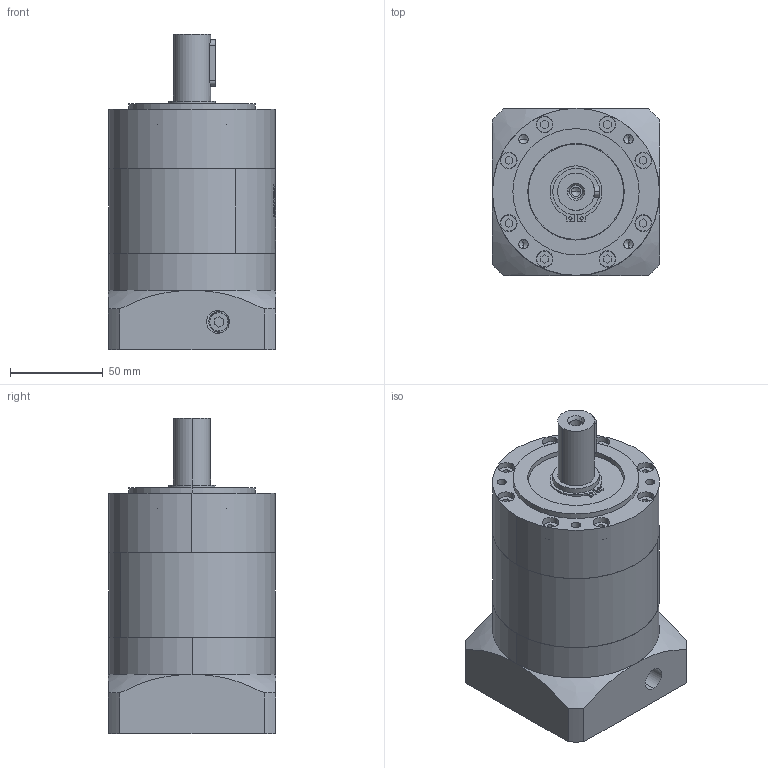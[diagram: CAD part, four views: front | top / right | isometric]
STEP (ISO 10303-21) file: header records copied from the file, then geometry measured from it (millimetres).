
FILE_DESCRIPTION (( 'STEP AP203' ), '1' );
FILE_NAME ('PLE090-L2-19-70-90.STEP', '2022-07-04T07:45:37', ( 'Windows User' ), ( 'P R C' ), 'SwSTEP 2.0', 'SolidWorks 2016', '' );
FILE_SCHEMA (( 'CONFIG_CONTROL_DESIGN' ));
Length unit declared in the file: millimetre
Products named in the file (8): PLE090蟀諉啣; PLE090奻屳唳; PLE090-L2-19-70-90; PLE090內齿圈-优化_二级内齿圈; 粣創-6007 35x62x14; PLE090狟屳唳19-70-90; 囀鞠褒蹟佪 M6x20; 邧埴瑩 6x6x25
Assembly tree (7 placements, depth 2):
  PLE090-L2-19-70-90
    PLE090內齿圈-优化_二级内齿圈
    PLE090狟屳唳19-70-90
    囀鞠褒蹟佪 M6x20
    邧埴瑩 6x6x25
    粣創-6007 35x62x14
    PLE090蟀諉啣
    PLE090奻屳唳
Bounding box: 90 x 90 x 170 mm (x, y, z)
Volume: 788792.6 mm3; surface area: 147846.6 mm2
Topology: 7 solids, 7 shells, 1014 faces, 2702 edges, 1782 vertices
Faces by surface type: plane 523, cylinder 193, bspline 134, sphere 88, torus 54, cone 22
Entity records: 40712 total; most frequent: CARTESIAN_POINT 15510, ORIENTED_EDGE 5368, DIRECTION 4564, EDGE_CURVE 2684, VERTEX_POINT 1782, AXIS2_PLACEMENT_3D 1623, VECTOR 1318, LINE 1318
